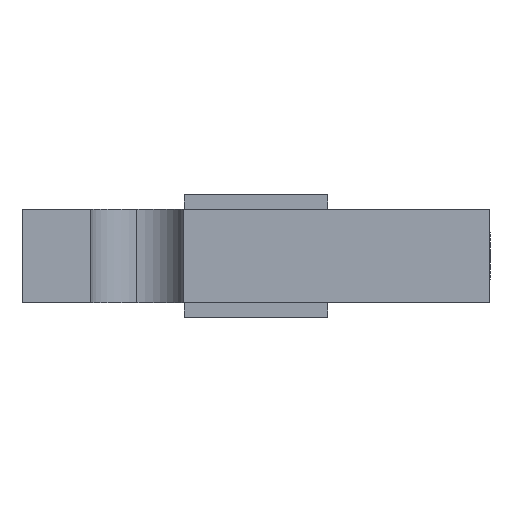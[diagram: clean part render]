
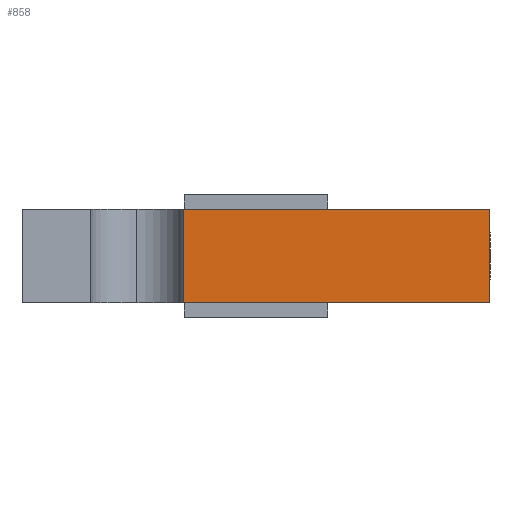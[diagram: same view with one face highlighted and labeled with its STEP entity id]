
A CAD part, left-side view. The second image highlights one B-rep face of the part: STEP entity #858.
In plain terms, the highlighted planar face has unit normal (-1, 0, 0).
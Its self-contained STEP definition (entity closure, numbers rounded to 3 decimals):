
#146 = CARTESIAN_POINT ( 'NONE',  ( -25.4, 31.75, -6.35 ) ) ;
#218 = EDGE_CURVE ( 'NONE', #2800, #1897, #2534, .T. ) ;
#303 = EDGE_CURVE ( 'NONE', #1897, #1453, #2079, .T. ) ;
#320 = EDGE_CURVE ( 'NONE', #2800, #546, #2041, .T. ) ;
#331 = EDGE_CURVE ( 'NONE', #1453, #546, #1976, .T. ) ;
#546 = VERTEX_POINT ( 'NONE', #2067 ) ;
#578 = CARTESIAN_POINT ( 'NONE',  ( -25.4, 9.8, 6.35 ) ) ;
#591 = CARTESIAN_POINT ( 'NONE',  ( -25.4, -31.75, 6.35 ) ) ;
#656 = CARTESIAN_POINT ( 'NONE',  ( -25.4, 31.75, 6.35 ) ) ;
#725 = CARTESIAN_POINT ( 'NONE',  ( -25.4, 9.8, -6.35 ) ) ;
#858 = ADVANCED_FACE ( 'NONE', ( #2713 ), #1794, .F. ) ;
#929 = AXIS2_PLACEMENT_3D ( 'NONE', #656, #2134, #939 ) ;
#939 = DIRECTION ( 'NONE',  ( 0., 1., 0. ) ) ;
#1175 = EDGE_LOOP ( 'NONE', ( #1485, #1348, #2519, #1892 ) ) ;
#1348 = ORIENTED_EDGE ( 'NONE', *, *, #218, .F. ) ;
#1453 = VERTEX_POINT ( 'NONE', #2782 ) ;
#1485 = ORIENTED_EDGE ( 'NONE', *, *, #303, .F. ) ;
#1579 = DIRECTION ( 'NONE',  ( 0., 0., 1. ) ) ;
#1749 = DIRECTION ( 'NONE',  ( 0., -1., 0. ) ) ;
#1794 = PLANE ( 'NONE',  #929 ) ;
#1892 = ORIENTED_EDGE ( 'NONE', *, *, #331, .F. ) ;
#1897 = VERTEX_POINT ( 'NONE', #725 ) ;
#1913 = CARTESIAN_POINT ( 'NONE',  ( -25.4, -31.75, 6.35 ) ) ;
#1914 = VECTOR ( 'NONE', #1749, 1000. ) ;
#1976 = LINE ( 'NONE', #591, #1914 ) ;
#2010 = CARTESIAN_POINT ( 'NONE',  ( -25.4, -31.75, -6.35 ) ) ;
#2041 = LINE ( 'NONE', #1913, #2048 ) ;
#2048 = VECTOR ( 'NONE', #1579, 1000. ) ;
#2067 = CARTESIAN_POINT ( 'NONE',  ( -25.4, -31.75, 6.35 ) ) ;
#2079 = LINE ( 'NONE', #578, #2140 ) ;
#2089 = DIRECTION ( 'NONE',  ( 0., 0., 1. ) ) ;
#2134 = DIRECTION ( 'NONE',  ( 1., 0., 0. ) ) ;
#2140 = VECTOR ( 'NONE', #2089, 1000. ) ;
#2416 = VECTOR ( 'NONE', #2510, 1000. ) ;
#2510 = DIRECTION ( 'NONE',  ( 0., 1., 0. ) ) ;
#2519 = ORIENTED_EDGE ( 'NONE', *, *, #320, .T. ) ;
#2534 = LINE ( 'NONE', #146, #2416 ) ;
#2713 = FACE_OUTER_BOUND ( 'NONE', #1175, .T. ) ;
#2782 = CARTESIAN_POINT ( 'NONE',  ( -25.4, 9.8, 6.35 ) ) ;
#2800 = VERTEX_POINT ( 'NONE', #2010 ) ;
